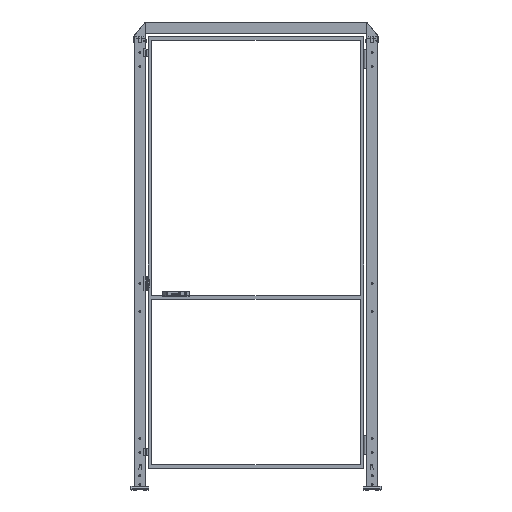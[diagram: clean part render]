
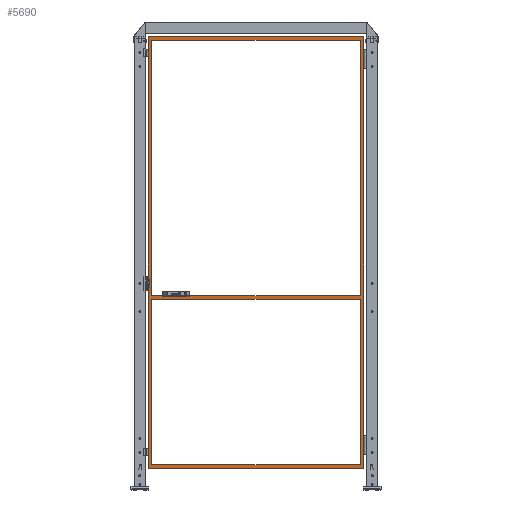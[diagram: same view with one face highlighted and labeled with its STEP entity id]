
A CAD part, top view. The second image highlights one B-rep face of the part: STEP entity #5690.
In plain terms, the highlighted planar face has unit normal (0, 0, 1).
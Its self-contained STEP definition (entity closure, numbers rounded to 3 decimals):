
#5690=ADVANCED_FACE('',(#11648,#11649,#11650),#11651,.F.);
#11648=FACE_BOUND('',#19171,.T.);
#11649=FACE_OUTER_BOUND('',#19172,.T.);
#11650=FACE_BOUND('',#19173,.T.);
#11651=PLANE('',#19174);
#19171=EDGE_LOOP('',(#35965,#35966,#35967,#35968));
#19172=EDGE_LOOP('',(#35969,#35970,#35971,#35972));
#19173=EDGE_LOOP('',(#35973,#35974,#35975,#35976));
#19174=AXIS2_PLACEMENT_3D('',#35977,#35978,#35979);
#35965=ORIENTED_EDGE('',*,*,#42847,.F.);
#35966=ORIENTED_EDGE('',*,*,#42853,.T.);
#35967=ORIENTED_EDGE('',*,*,#42875,.T.);
#35968=ORIENTED_EDGE('',*,*,#42880,.F.);
#35969=ORIENTED_EDGE('',*,*,#42891,.F.);
#35970=ORIENTED_EDGE('',*,*,#42885,.F.);
#35971=ORIENTED_EDGE('',*,*,#42855,.F.);
#35972=ORIENTED_EDGE('',*,*,#42889,.F.);
#35973=ORIENTED_EDGE('',*,*,#42877,.F.);
#35974=ORIENTED_EDGE('',*,*,#42872,.F.);
#35975=ORIENTED_EDGE('',*,*,#42883,.T.);
#35976=ORIENTED_EDGE('',*,*,#42892,.T.);
#35977=CARTESIAN_POINT('',(615.0,130.0,10.0));
#35978=DIRECTION('',(0.,0.0,-1.0));
#35979=DIRECTION('',(-1.0,0.0,0.));
#42847=EDGE_CURVE('',#52941,#52944,#52945,.T.);
#42853=EDGE_CURVE('',#52941,#52952,#52954,.T.);
#42855=EDGE_CURVE('',#52956,#52957,#52958,.T.);
#42872=EDGE_CURVE('',#52984,#52982,#52986,.T.);
#42875=EDGE_CURVE('',#52952,#52988,#52990,.T.);
#42877=EDGE_CURVE('',#52982,#52992,#52993,.T.);
#42880=EDGE_CURVE('',#52944,#52988,#52996,.T.);
#42883=EDGE_CURVE('',#52984,#52998,#53000,.T.);
#42885=EDGE_CURVE('',#52957,#53002,#53003,.T.);
#42889=EDGE_CURVE('',#53006,#52956,#53008,.T.);
#42891=EDGE_CURVE('',#53002,#53006,#53010,.T.);
#42892=EDGE_CURVE('',#52998,#52992,#53011,.T.);
#52941=VERTEX_POINT('',#68243);
#52944=VERTEX_POINT('',#68247);
#52945=LINE('',#68248,#68249);
#52952=VERTEX_POINT('',#68259);
#52954=LINE('',#68262,#68263);
#52956=VERTEX_POINT('',#68265);
#52957=VERTEX_POINT('',#68266);
#52958=LINE('',#68267,#68268);
#52982=VERTEX_POINT('',#68304);
#52984=VERTEX_POINT('',#68307);
#52986=LINE('',#68310,#68311);
#52988=VERTEX_POINT('',#68313);
#52990=LINE('',#68316,#68317);
#52992=VERTEX_POINT('',#68319);
#52993=LINE('',#68320,#68321);
#52996=LINE('',#68325,#68326);
#52998=VERTEX_POINT('',#68328);
#53000=LINE('',#68331,#68332);
#53002=VERTEX_POINT('',#68334);
#53003=LINE('',#68335,#68336);
#53006=VERTEX_POINT('',#68340);
#53008=LINE('',#68343,#68344);
#53010=LINE('',#68346,#68347);
#53011=LINE('',#68348,#68349);
#68243=CARTESIAN_POINT('',(1195.0,2500.0,10.));
#68247=CARTESIAN_POINT('',(35.,2500.0,10.0));
#68248=CARTESIAN_POINT('',(615.0,2500.0,10.0));
#68249=VECTOR('',#75637,1.0);
#68259=CARTESIAN_POINT('',(1195.0,1080.0,10.));
#68262=CARTESIAN_POINT('',(1195.0,1320.0,10.));
#68263=VECTOR('',#75642,1.0);
#68265=CARTESIAN_POINT('',(15.0,120.0,10.0));
#68266=CARTESIAN_POINT('',(15.,2520.0,10.0));
#68267=CARTESIAN_POINT('',(15.0,130.0,10.0));
#68268=VECTOR('',#75643,1.0);
#68304=CARTESIAN_POINT('',(35.,1060.0,10.0));
#68307=CARTESIAN_POINT('',(1195.0,1060.0,10.));
#68310=CARTESIAN_POINT('',(615.0,1060.0,10.0));
#68311=VECTOR('',#75658,1.0);
#68313=CARTESIAN_POINT('',(35.,1080.0,10.0));
#68316=CARTESIAN_POINT('',(615.0,1080.0,10.0));
#68317=VECTOR('',#75660,1.0);
#68319=CARTESIAN_POINT('',(35.0,140.0,10.0));
#68320=CARTESIAN_POINT('',(35.,1320.0,10.0));
#68321=VECTOR('',#75661,1.0);
#68325=CARTESIAN_POINT('',(35.,1320.0,10.0));
#68326=VECTOR('',#75663,1.0);
#68328=CARTESIAN_POINT('',(1195.0,140.0,10.));
#68331=CARTESIAN_POINT('',(1195.0,1320.0,10.));
#68332=VECTOR('',#75665,1.0);
#68334=CARTESIAN_POINT('',(1215.0,2520.0,10.));
#68335=CARTESIAN_POINT('',(25.,2520.0,10.0));
#68336=VECTOR('',#75666,1.0);
#68340=CARTESIAN_POINT('',(1215.0,120.0,10.));
#68343=CARTESIAN_POINT('',(615.0,120.0,10.0));
#68344=VECTOR('',#75669,1.0);
#68346=CARTESIAN_POINT('',(1215.0,1320.0,10.));
#68347=VECTOR('',#75670,1.0);
#68348=CARTESIAN_POINT('',(615.0,140.0,10.0));
#68349=VECTOR('',#75671,1.0);
#75637=DIRECTION('',(-1.0,0.0,0.));
#75642=DIRECTION('',(0.,-1.0,0.));
#75643=DIRECTION('',(0.0,1.0,0.0));
#75658=DIRECTION('',(-1.0,0.0,0.));
#75660=DIRECTION('',(-1.0,0.0,0.));
#75661=DIRECTION('',(0.,-1.0,0.));
#75663=DIRECTION('',(0.,-1.0,0.));
#75665=DIRECTION('',(0.,-1.0,0.));
#75666=DIRECTION('',(1.0,0.,0.));
#75669=DIRECTION('',(-1.0,0.0,0.));
#75670=DIRECTION('',(0.,-1.0,0.));
#75671=DIRECTION('',(-1.0,0.0,0.));
